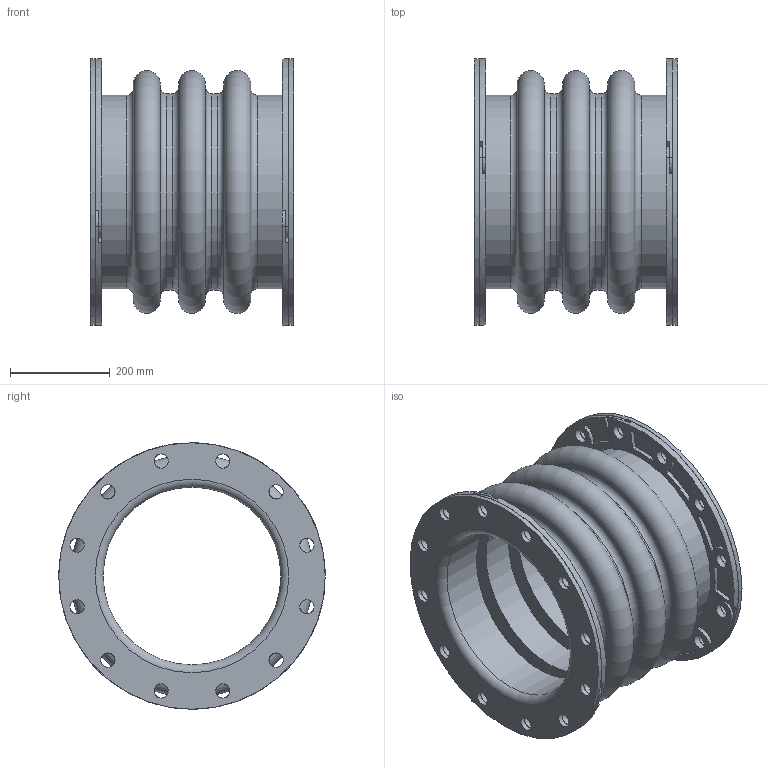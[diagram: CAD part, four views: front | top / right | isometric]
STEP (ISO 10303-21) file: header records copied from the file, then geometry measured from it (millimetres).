
FILE_DESCRIPTION(/* description */ (''),/* implementation_level */ '2;1');
FILE_NAME(/* name */ 'C:\001_Work\Designs\Mercer2014\MQInventor2014\RajR\500 Style\503\New folder\503 14IDx16FF.stp',/* time_stamp */ '2016-03-26T18:04:34-04:00',/* author */ ('rramoutar'),/* organization */ ('Mason Industries Inc.'),/* preprocessor_version */ 'ST-DEVELOPER v15.6',/* originating_system */ 'Autodesk Inventor 2015',/* authorisation */ '');
FILE_SCHEMA (('CONFIG_CONTROL_DESIGN'));
Length unit declared in the file: inch
Products named in the file (1): 503 14IDx16FF
Bounding box: 406.4 x 533.4 x 533.4 mm (x, y, z)
Volume: 16370325.6 mm3; surface area: 2553713.7 mm2
Topology: 3 solids, 3 shells, 386 faces, 1032 edges, 674 vertices
Faces by surface type: cylinder 270, plane 88, torus 16, cone 12
Full cylindrical faces by diameter (mm): 28.575 x48, 355.6 x4, 387.35 x2, 393.7 x2, 400.05 x2, 533.4 x2
Entity records: 12436 total; most frequent: DIRECTION 2310, CARTESIAN_POINT 1989, ORIENTED_EDGE 1872, AXIS2_PLACEMENT_3D 987, EDGE_CURVE 936, VERTEX_POINT 666, CIRCLE 600, EDGE_LOOP 598
